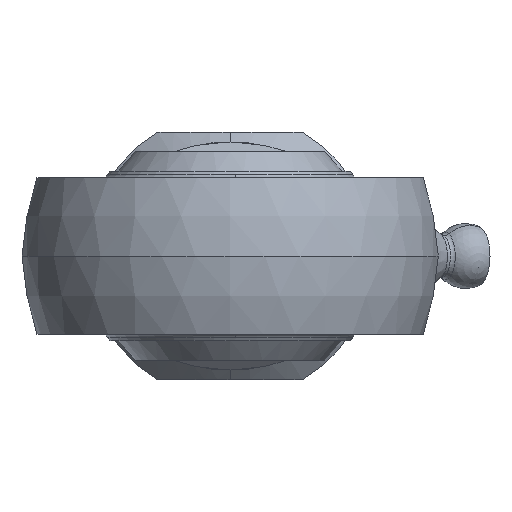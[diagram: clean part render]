
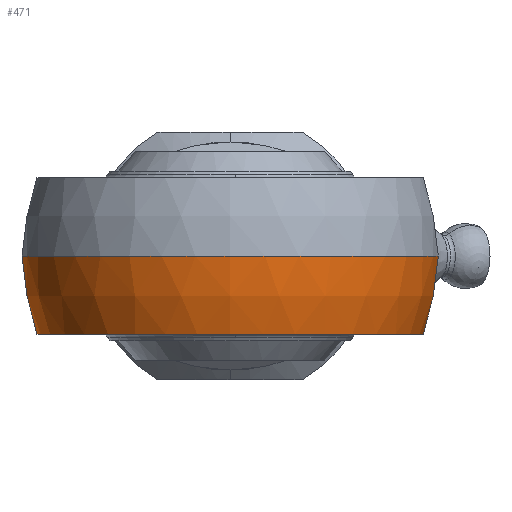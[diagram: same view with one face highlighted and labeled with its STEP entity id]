
A CAD part, left-side view. The second image highlights one B-rep face of the part: STEP entity #471.
In plain terms, the highlighted spherical face has radius 16 mm.
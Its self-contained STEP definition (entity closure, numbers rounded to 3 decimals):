
#425 = ORIENTED_EDGE ( 'NONE', *, *, #441, .T. ) ;
#427 = VERTEX_POINT ( 'NONE', #1562 ) ;
#430 = VERTEX_POINT ( 'NONE', #1559 ) ;
#431 = ORIENTED_EDGE ( 'NONE', *, *, #433, .F. ) ;
#433 = EDGE_CURVE ( 'NONE', #4676, #430, #1554, .T. ) ;
#441 = EDGE_CURVE ( 'NONE', #427, #430, #1588, .T. ) ;
#447 = EDGE_CURVE ( 'NONE', #448, #427, #1634, .T. ) ;
#448 = VERTEX_POINT ( 'NONE', #1624 ) ;
#460 = EDGE_LOOP ( 'NONE', ( #462, #425, #431, #4678, #4669 ) ) ;
#462 = ORIENTED_EDGE ( 'NONE', *, *, #447, .T. ) ;
#471 = ADVANCED_FACE ( 'NONE', ( #1675 ), #1640, .T. ) ;
#1550 = DIRECTION ( 'NONE',  ( 1., 0., 0. ) ) ;
#1551 = DIRECTION ( 'NONE',  ( 0., 0., 1. ) ) ;
#1552 = CARTESIAN_POINT ( 'NONE',  ( 0., 0., 0. ) ) ;
#1553 = AXIS2_PLACEMENT_3D ( 'NONE', #1552, #1551, #1550 ) ;
#1554 = CIRCLE ( 'NONE', #1553, 16. ) ;
#1559 = CARTESIAN_POINT ( 'NONE',  ( -16., 0., 0. ) ) ;
#1562 = CARTESIAN_POINT ( 'NONE',  ( 6.921, -14.425, 0. ) ) ;
#1584 = DIRECTION ( 'NONE',  ( 0., 1., 0. ) ) ;
#1585 = DIRECTION ( 'NONE',  ( 0., 0., -1. ) ) ;
#1586 = CARTESIAN_POINT ( 'NONE',  ( 0., 0., 0. ) ) ;
#1587 = AXIS2_PLACEMENT_3D ( 'NONE', #1586, #1585, #1584 ) ;
#1588 = CIRCLE ( 'NONE', #1587, 16. ) ;
#1624 = CARTESIAN_POINT ( 'NONE',  ( 6.921, -13.118, -6. ) ) ;
#1625 = DIRECTION ( 'NONE',  ( 0., 0., 1. ) ) ;
#1626 = DIRECTION ( 'NONE',  ( -1., 0., 0. ) ) ;
#1627 = CARTESIAN_POINT ( 'NONE',  ( 6.921, 0., 0. ) ) ;
#1628 = AXIS2_PLACEMENT_3D ( 'NONE', #1627, #1626, #1625 ) ;
#1634 = CIRCLE ( 'NONE', #1628, 14.425 ) ;
#1636 = DIRECTION ( 'NONE',  ( 0., 1., 0. ) ) ;
#1637 = AXIS2_PLACEMENT_3D ( 'NONE', #1639, #1673, #1636 ) ;
#1639 = CARTESIAN_POINT ( 'NONE',  ( 0., 0., 0. ) ) ;
#1640 = SPHERICAL_SURFACE ( 'NONE', #1637, 16. ) ;
#1673 = DIRECTION ( 'NONE',  ( 0., 0., -1. ) ) ;
#1675 = FACE_OUTER_BOUND ( 'NONE', #460, .T. ) ;
#3700 = CARTESIAN_POINT ( 'NONE',  ( 6.921, 14.425, 0. ) ) ;
#3701 = DIRECTION ( 'NONE',  ( 0., 0., 1. ) ) ;
#3702 = DIRECTION ( 'NONE',  ( -1., 0., 0. ) ) ;
#3703 = CARTESIAN_POINT ( 'NONE',  ( 6.921, 0., 0. ) ) ;
#3704 = AXIS2_PLACEMENT_3D ( 'NONE', #3703, #3702, #3701 ) ;
#3705 = CIRCLE ( 'NONE', #3704, 14.425 ) ;
#3706 = CARTESIAN_POINT ( 'NONE',  ( 6.921, 13.118, -6. ) ) ;
#3720 = DIRECTION ( 'NONE',  ( 1., 0., 0. ) ) ;
#3721 = DIRECTION ( 'NONE',  ( 0., 0., 1. ) ) ;
#3722 = CARTESIAN_POINT ( 'NONE',  ( 0., 0., -6. ) ) ;
#3723 = AXIS2_PLACEMENT_3D ( 'NONE', #3722, #3721, #3720 ) ;
#3724 = CIRCLE ( 'NONE', #3723, 14.832 ) ;
#4665 = EDGE_CURVE ( 'NONE', #4671, #448, #3724, .T. ) ;
#4669 = ORIENTED_EDGE ( 'NONE', *, *, #4665, .T. ) ;
#4671 = VERTEX_POINT ( 'NONE', #3706 ) ;
#4675 = EDGE_CURVE ( 'NONE', #4676, #4671, #3705, .T. ) ;
#4676 = VERTEX_POINT ( 'NONE', #3700 ) ;
#4678 = ORIENTED_EDGE ( 'NONE', *, *, #4675, .T. ) ;
